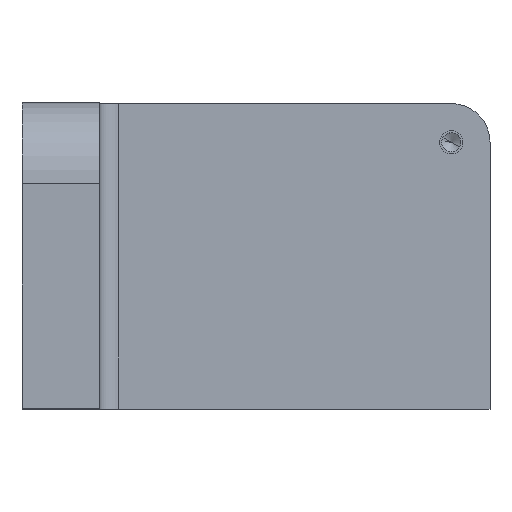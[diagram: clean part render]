
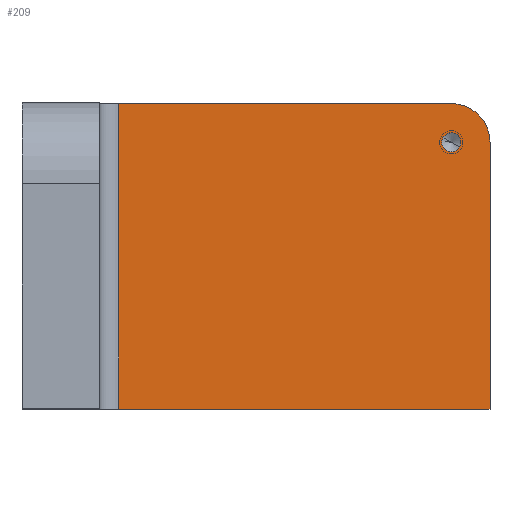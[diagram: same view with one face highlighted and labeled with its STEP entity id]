
A CAD part, top view. The second image highlights one B-rep face of the part: STEP entity #209.
In plain terms, the highlighted planar face has unit normal (0, 0, 1).
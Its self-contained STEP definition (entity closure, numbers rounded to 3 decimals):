
#144=CARTESIAN_POINT('Axis2P3D Location',(0.,0.,20.)) ;
#149=CARTESIAN_POINT('Line Origine',(73.,0.,20.)) ;
#153=CARTESIAN_POINT('Vertex',(25.,0.,20.)) ;
#155=CARTESIAN_POINT('Vertex',(121.,0.,20.)) ;
#158=CARTESIAN_POINT('Line Origine',(121.,34.5,20.)) ;
#162=CARTESIAN_POINT('Vertex',(121.,69.,20.)) ;
#165=CARTESIAN_POINT('Axis2P3D Location',(111.,69.,20.)) ;
#169=CARTESIAN_POINT('Vertex',(111.,79.,20.)) ;
#172=CARTESIAN_POINT('Line Origine',(68.,79.,20.)) ;
#176=CARTESIAN_POINT('Vertex',(25.,79.,20.)) ;
#179=CARTESIAN_POINT('Line Origine',(25.,39.5,20.)) ;
#191=CARTESIAN_POINT('Axis2P3D Location',(111.,69.,20.)) ;
#195=CARTESIAN_POINT('Vertex',(108.842,70.179,20.)) ;
#197=CARTESIAN_POINT('Vertex',(113.158,67.821,20.)) ;
#200=CARTESIAN_POINT('Axis2P3D Location',(111.,69.,20.)) ;
#145=DIRECTION('Axis2P3D Direction',(0.,0.,1.)) ;
#146=DIRECTION('Axis2P3D XDirection',(1.,0.,0.)) ;
#150=DIRECTION('Vector Direction',(1.,0.,0.)) ;
#159=DIRECTION('Vector Direction',(0.,1.,0.)) ;
#166=DIRECTION('Axis2P3D Direction',(0.,0.,1.)) ;
#173=DIRECTION('Vector Direction',(-1.,0.,0.)) ;
#180=DIRECTION('Vector Direction',(0.,-1.,0.)) ;
#192=DIRECTION('Axis2P3D Direction',(0.,0.,1.)) ;
#201=DIRECTION('Axis2P3D Direction',(0.,0.,1.)) ;
#147=AXIS2_PLACEMENT_3D('Plane Axis2P3D',#144,#145,#146) ;
#167=AXIS2_PLACEMENT_3D('Circle Axis2P3D',#165,#166,$) ;
#193=AXIS2_PLACEMENT_3D('Circle Axis2P3D',#191,#192,$) ;
#202=AXIS2_PLACEMENT_3D('Circle Axis2P3D',#200,#201,$) ;
#185=ORIENTED_EDGE('',*,*,#157,.T.) ;
#186=ORIENTED_EDGE('',*,*,#164,.T.) ;
#187=ORIENTED_EDGE('',*,*,#171,.T.) ;
#188=ORIENTED_EDGE('',*,*,#178,.T.) ;
#189=ORIENTED_EDGE('',*,*,#183,.F.) ;
#206=ORIENTED_EDGE('',*,*,#199,.F.) ;
#207=ORIENTED_EDGE('',*,*,#204,.F.) ;
#208=FACE_BOUND('',#205,.T.) ;
#151=VECTOR('Line Direction',#150,1.) ;
#160=VECTOR('Line Direction',#159,1.) ;
#174=VECTOR('Line Direction',#173,1.) ;
#181=VECTOR('Line Direction',#180,1.) ;
#209=ADVANCED_FACE('PartBody',(#190,#208),#148,.T.) ;
#168=CIRCLE('generated circle',#167,10.) ;
#194=CIRCLE('generated circle',#193,2.459) ;
#203=CIRCLE('generated circle',#202,2.459) ;
#157=EDGE_CURVE('',#154,#156,#152,.T.) ;
#164=EDGE_CURVE('',#156,#163,#161,.T.) ;
#171=EDGE_CURVE('',#163,#170,#168,.T.) ;
#178=EDGE_CURVE('',#170,#177,#175,.T.) ;
#183=EDGE_CURVE('',#154,#177,#182,.F.) ;
#199=EDGE_CURVE('',#196,#198,#194,.T.) ;
#204=EDGE_CURVE('',#198,#196,#203,.T.) ;
#184=EDGE_LOOP('',(#185,#186,#187,#188,#189)) ;
#205=EDGE_LOOP('',(#206,#207)) ;
#190=FACE_OUTER_BOUND('',#184,.T.) ;
#152=LINE('Line',#149,#151) ;
#161=LINE('Line',#158,#160) ;
#175=LINE('Line',#172,#174) ;
#182=LINE('Line',#179,#181) ;
#148=PLANE('',#147) ;
#154=VERTEX_POINT('',#153) ;
#156=VERTEX_POINT('',#155) ;
#163=VERTEX_POINT('',#162) ;
#170=VERTEX_POINT('',#169) ;
#177=VERTEX_POINT('',#176) ;
#196=VERTEX_POINT('',#195) ;
#198=VERTEX_POINT('',#197) ;
